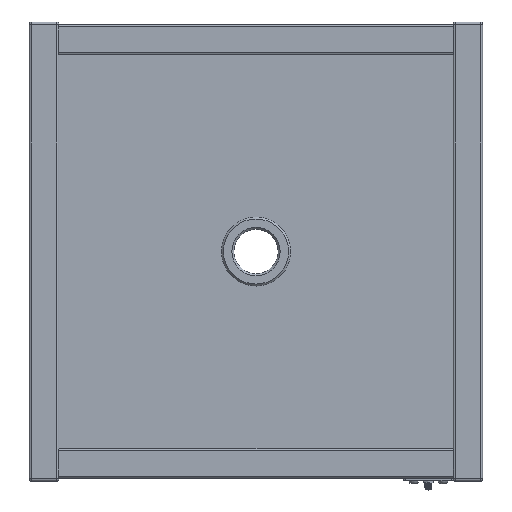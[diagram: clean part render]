
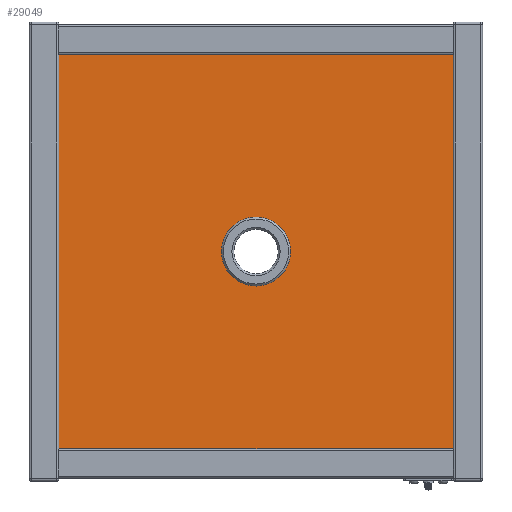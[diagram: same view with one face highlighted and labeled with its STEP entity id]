
A CAD part, top view. The second image highlights one B-rep face of the part: STEP entity #29049.
In plain terms, the highlighted planar face has unit normal (0, 0, 1).
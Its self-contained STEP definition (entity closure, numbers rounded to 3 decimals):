
#23 = LINE ( 'NONE', #27585, #16646 ) ;
#205 = VERTEX_POINT ( 'NONE', #6892 ) ;
#1027 = EDGE_CURVE ( 'NONE', #23641, #205, #22670, .T. ) ;
#1106 = LINE ( 'NONE', #6854, #20200 ) ;
#1107 = VERTEX_POINT ( 'NONE', #11271 ) ;
#2149 = VECTOR ( 'NONE', #3795, 1000. ) ;
#2983 = DIRECTION ( 'NONE',  ( 0., -1., 0. ) ) ;
#3037 = ORIENTED_EDGE ( 'NONE', *, *, #18153, .T. ) ;
#3795 = DIRECTION ( 'NONE',  ( -1., 0., 0. ) ) ;
#4526 = PLANE ( 'NONE',  #25891 ) ;
#5106 = ORIENTED_EDGE ( 'NONE', *, *, #11780, .F. ) ;
#6482 = DIRECTION ( 'NONE',  ( 0., -1., 0. ) ) ;
#6854 = CARTESIAN_POINT ( 'NONE',  ( 200., -200., 0. ) ) ;
#6892 = CARTESIAN_POINT ( 'NONE',  ( -200., 200., 0. ) ) ;
#6928 = ORIENTED_EDGE ( 'NONE', *, *, #10152, .T. ) ;
#7082 = AXIS2_PLACEMENT_3D ( 'NONE', #14439, #16630, #2983 ) ;
#7363 = DIRECTION ( 'NONE',  ( 0., -1., 0. ) ) ;
#7691 = ORIENTED_EDGE ( 'NONE', *, *, #1027, .T. ) ;
#8308 = CARTESIAN_POINT ( 'NONE',  ( 200., 200., 0. ) ) ;
#8715 = CARTESIAN_POINT ( 'NONE',  ( 200., -200., 0. ) ) ;
#8933 = EDGE_LOOP ( 'NONE', ( #5106 ) ) ;
#10152 = EDGE_CURVE ( 'NONE', #15301, #23641, #24837, .T. ) ;
#11271 = CARTESIAN_POINT ( 'NONE',  ( -200., -200., 0. ) ) ;
#11718 = VECTOR ( 'NONE', #26719, 1000. ) ;
#11780 = EDGE_CURVE ( 'NONE', #17713, #17713, #18362, .T. ) ;
#11905 = CARTESIAN_POINT ( 'NONE',  ( 200., 200., 0. ) ) ;
#14439 = CARTESIAN_POINT ( 'NONE',  ( 0., 0., 0. ) ) ;
#15301 = VERTEX_POINT ( 'NONE', #15598 ) ;
#15598 = CARTESIAN_POINT ( 'NONE',  ( 200., -200., 0. ) ) ;
#15787 = DIRECTION ( 'NONE',  ( 1., 0., 0. ) ) ;
#16630 = DIRECTION ( 'NONE',  ( 0., 0., 1. ) ) ;
#16646 = VECTOR ( 'NONE', #7363, 1000. ) ;
#17713 = VERTEX_POINT ( 'NONE', #18867 ) ;
#18153 = EDGE_CURVE ( 'NONE', #205, #1107, #23, .T. ) ;
#18362 = CIRCLE ( 'NONE', #7082, 35. ) ;
#18867 = CARTESIAN_POINT ( 'NONE',  ( 0., -35., 0. ) ) ;
#20200 = VECTOR ( 'NONE', #15787, 1000. ) ;
#20282 = EDGE_LOOP ( 'NONE', ( #3037, #21415, #6928, #7691 ) ) ;
#20370 = CARTESIAN_POINT ( 'NONE',  ( 0., 0., 0. ) ) ;
#21415 = ORIENTED_EDGE ( 'NONE', *, *, #24009, .T. ) ;
#22670 = LINE ( 'NONE', #8308, #2149 ) ;
#23641 = VERTEX_POINT ( 'NONE', #11905 ) ;
#24009 = EDGE_CURVE ( 'NONE', #1107, #15301, #1106, .T. ) ;
#24837 = LINE ( 'NONE', #8715, #11718 ) ;
#25891 = AXIS2_PLACEMENT_3D ( 'NONE', #20370, #27087, #6482 ) ;
#26719 = DIRECTION ( 'NONE',  ( 0., 1., 0. ) ) ;
#26929 = FACE_BOUND ( 'NONE', #8933, .T. ) ;
#27087 = DIRECTION ( 'NONE',  ( 0., 0., 1. ) ) ;
#27585 = CARTESIAN_POINT ( 'NONE',  ( -200., -200., 0. ) ) ;
#27656 = FACE_OUTER_BOUND ( 'NONE', #20282, .T. ) ;
#29049 = ADVANCED_FACE ( 'NONE', ( #26929, #27656 ), #4526, .T. ) ;
